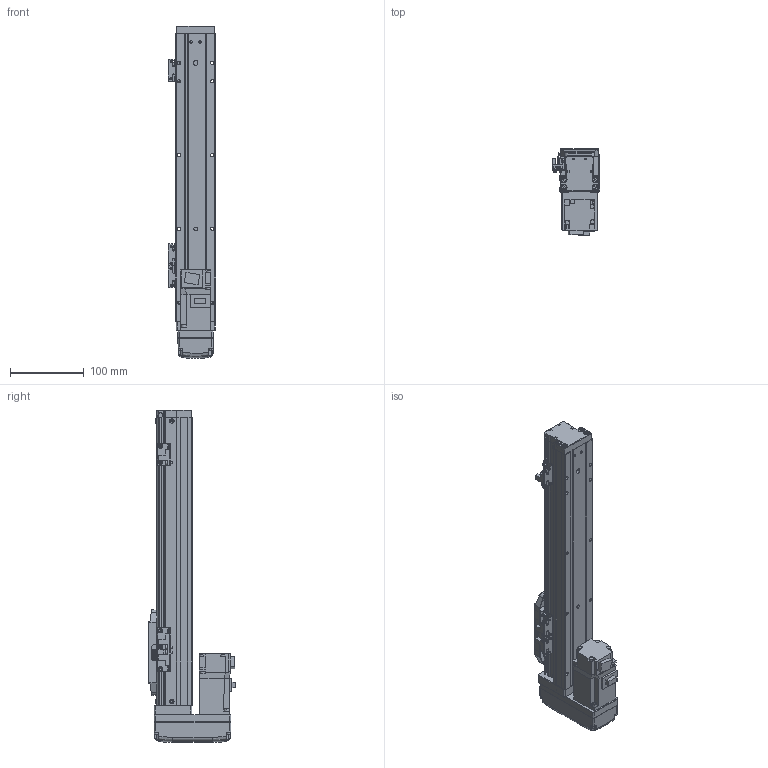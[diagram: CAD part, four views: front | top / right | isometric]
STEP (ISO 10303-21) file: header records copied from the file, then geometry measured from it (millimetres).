
FILE_DESCRIPTION (( 'STEP AP203' ), '1' );
FILE_NAME ('GTH5-250-BM-M10-C4.step', '2022-09-23T00:46:59', ( '微软用户' ), ( '微软中国' ), 'SwSTEP 2.0', 'SolidWorks 2020', '' );
FILE_SCHEMA (( 'CONFIG_CONTROL_DESIGN' ));
Length unit declared in the file: millimetre
Products named in the file (19): GTH50-013; GTH50-022-1; GTH50-004; GTH50-023; HG-KR13; GBT 70.3-M3℅6; GBT 70.1-M3℅6; GTH50-027-1_BTHA50-027-2; BTH-M3X5X6; GBT96.1-2002 3×0.8; GTH50-026; GTH50-001_250; GTH50-024; GTH5-250-BM-M10-C4; GBT 70.1-M4×16; GBT 70.1-M2.5×6; GTH50-003; GTH50-028; GTH50-006
Assembly tree (57 placements, depth 2):
  GTH5-250-BM-M10-C4
    GTH50-006
    GTH50-004
    GBT 70.3-M3℅6  x4
    BTH-M3X5X6  x8
    GTH50-001_250
    GBT 70.1-M4×16  x8
    GTH50-003
    GTH50-013
    GTH50-023  x3
    GBT 70.1-M3℅6  x12
    GBT96.1-2002 3×0.8  x6
    GTH50-024  x3
    GBT 70.1-M2.5×6  x2
    GTH50-028  x2
    GTH50-022-1
    HG-KR13
    GTH50-027-1_BTHA50-027-2
    GTH50-026
Bounding box: 63.8 x 118.9 x 450 mm (x, y, z)
Volume: 1101107.1 mm3; surface area: 219830.6 mm2
Topology: 59 solids, 59 shells, 2148 faces, 4980 edges, 3052 vertices
Faces by surface type: plane 1142, cylinder 577, cone 219, torus 162, bspline 40, sphere 8
Entity records: 39716 total; most frequent: CARTESIAN_POINT 7875, DIRECTION 6101, ORIENTED_EDGE 5874, EDGE_CURVE 2937, AXIS2_PLACEMENT_3D 2116, VECTOR 1869, LINE 1869, VERTEX_POINT 1854
